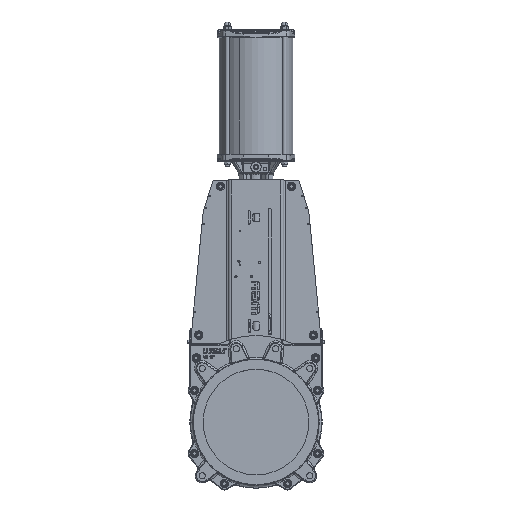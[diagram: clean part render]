
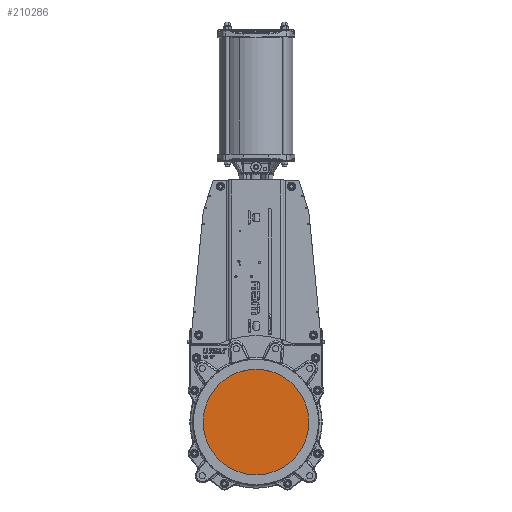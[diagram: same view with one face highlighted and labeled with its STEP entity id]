
A CAD part, top view. The second image highlights one B-rep face of the part: STEP entity #210286.
In plain terms, the highlighted planar face has unit normal (0, 0, 1).
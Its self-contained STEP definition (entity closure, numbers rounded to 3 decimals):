
#4059 = CIRCLE ( 'NONE', #67538, 150. ) ;
#14680 = DIRECTION ( 'NONE',  ( 0., 0., 1. ) ) ;
#14962 = VERTEX_POINT ( 'NONE', #37837 ) ;
#15662 = AXIS2_PLACEMENT_3D ( 'NONE', #16331, #132342, #33007 ) ;
#16331 = CARTESIAN_POINT ( 'NONE',  ( 0., 0., -0.25 ) ) ;
#33007 = DIRECTION ( 'NONE',  ( 1., 0., 0. ) ) ;
#37837 = CARTESIAN_POINT ( 'NONE',  ( 150., 0., -0.25 ) ) ;
#41536 = DIRECTION ( 'NONE',  ( 0., 0., -1. ) ) ;
#67538 = AXIS2_PLACEMENT_3D ( 'NONE', #114117, #14680, #130709 ) ;
#95635 = VERTEX_POINT ( 'NONE', #194280 ) ;
#98152 = EDGE_CURVE ( 'NONE', #95635, #14962, #4059, .T. ) ;
#114117 = CARTESIAN_POINT ( 'NONE',  ( 0., 0., -0.25 ) ) ;
#130709 = DIRECTION ( 'NONE',  ( 1., 0., 0. ) ) ;
#132342 = DIRECTION ( 'NONE',  ( 0., 0., 1. ) ) ;
#139410 = EDGE_LOOP ( 'NONE', ( #160329, #154908 ) ) ;
#140881 = CARTESIAN_POINT ( 'NONE',  ( 0., 98., -0.25 ) ) ;
#148523 = AXIS2_PLACEMENT_3D ( 'NONE', #140881, #41536, #157516 ) ;
#152947 = FACE_OUTER_BOUND ( 'NONE', #139410, .T. ) ;
#154908 = ORIENTED_EDGE ( 'NONE', *, *, #184144, .T. ) ;
#157516 = DIRECTION ( 'NONE',  ( -1., 0., 0. ) ) ;
#158828 = CIRCLE ( 'NONE', #15662, 150. ) ;
#160329 = ORIENTED_EDGE ( 'NONE', *, *, #98152, .T. ) ;
#173420 = PLANE ( 'NONE',  #148523 ) ;
#184144 = EDGE_CURVE ( 'NONE', #14962, #95635, #158828, .T. ) ;
#194280 = CARTESIAN_POINT ( 'NONE',  ( -150., 0., -0.25 ) ) ;
#210286 = ADVANCED_FACE ( 'NONE', ( #152947 ), #173420, .F. ) ;
